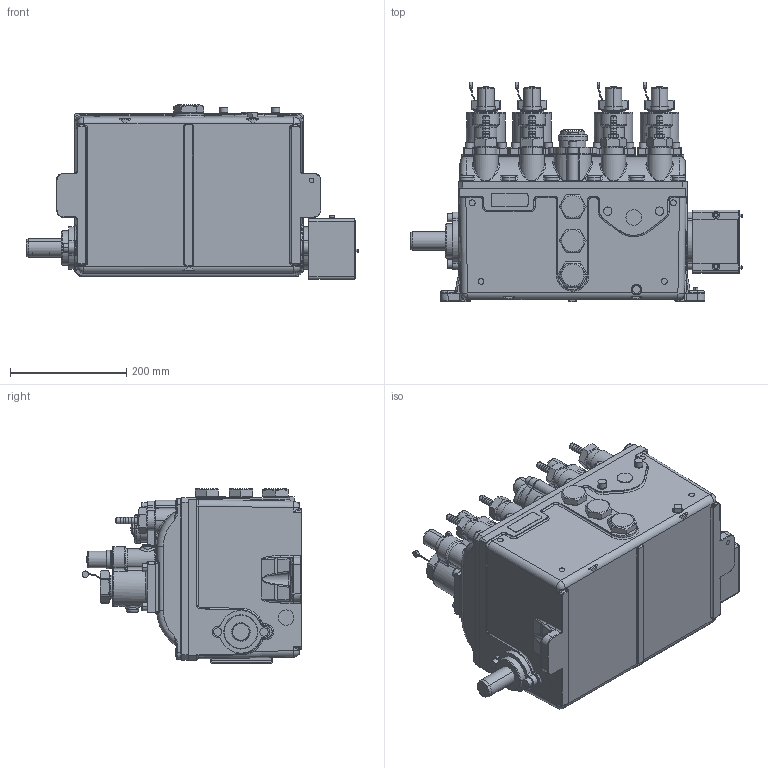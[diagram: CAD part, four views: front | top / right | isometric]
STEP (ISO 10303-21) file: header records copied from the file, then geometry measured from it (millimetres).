
FILE_DESCRIPTION((''),'2;1');
FILE_NAME('258263-EN-P_PRT','2019-12-31T19:25:54',('qusrh3'),(''),'CREO PARAMETRIC BY PTC INC, 2019030','CREO PARAMETRIC BY PTC INC, 2019030','');
FILE_SCHEMA(('CONFIG_CONTROL_DESIGN'));
Products named in the file (1): 258263-EN-P_PRT
Bounding box: 570.27 x 377.51 x 300.05 mm (x, y, z)
Surface area: 1125494.5 mm2 (no closed solid volume)
Topology: 0 solids, 186 shells, 2110 faces, 5420 edges, 3397 vertices
Faces by surface type: cylinder 748, plane 548, bspline 329, cone 256, torus 221, sphere 8
Entity records: 103082 total; most frequent: CARTESIAN_POINT 55676, ORIENTED_EDGE 9701, DIRECTION 9511, EDGE_CURVE 5418, AXIS2_PLACEMENT_3D 3854, VERTEX_POINT 3397, EDGE_LOOP 2110, FACE_OUTER_BOUND 2110
